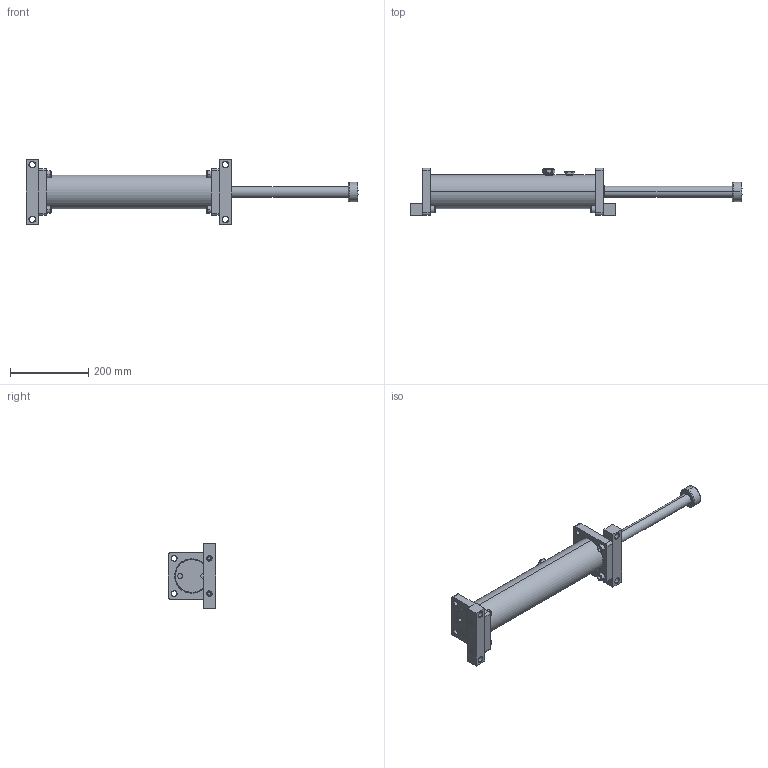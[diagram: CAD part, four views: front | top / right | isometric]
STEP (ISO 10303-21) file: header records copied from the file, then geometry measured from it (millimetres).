
FILE_DESCRIPTION (( 'STEP AP214' ), '1' );
FILE_NAME ('LDD1.5X12.STEP', '2019-01-16T05:08:07', ( 'user' ), ( 'Microsoft' ), 'SwSTEP 2.0', 'SolidWorks 2016', '' );
FILE_SCHEMA (( 'AUTOMOTIVE_DESIGN' ));
Length unit declared in the file: inch
Products named in the file (1): LDD1.5X12
Bounding box: 849 x 121 x 165 mm (x, y, z)
Surface area: 304311.9 mm2 (no closed solid volume)
Topology: 0 solids, 24 shells, 276 faces, 745 edges, 498 vertices
Faces by surface type: plane 98, cylinder 87, cone 61, bspline 30
Entity records: 14631 total; most frequent: CARTESIAN_POINT 7719, DIRECTION 1461, ORIENTED_EDGE 1342, EDGE_CURVE 745, AXIS2_PLACEMENT_3D 574, VERTEX_POINT 498, EDGE_LOOP 335, CIRCLE 327
